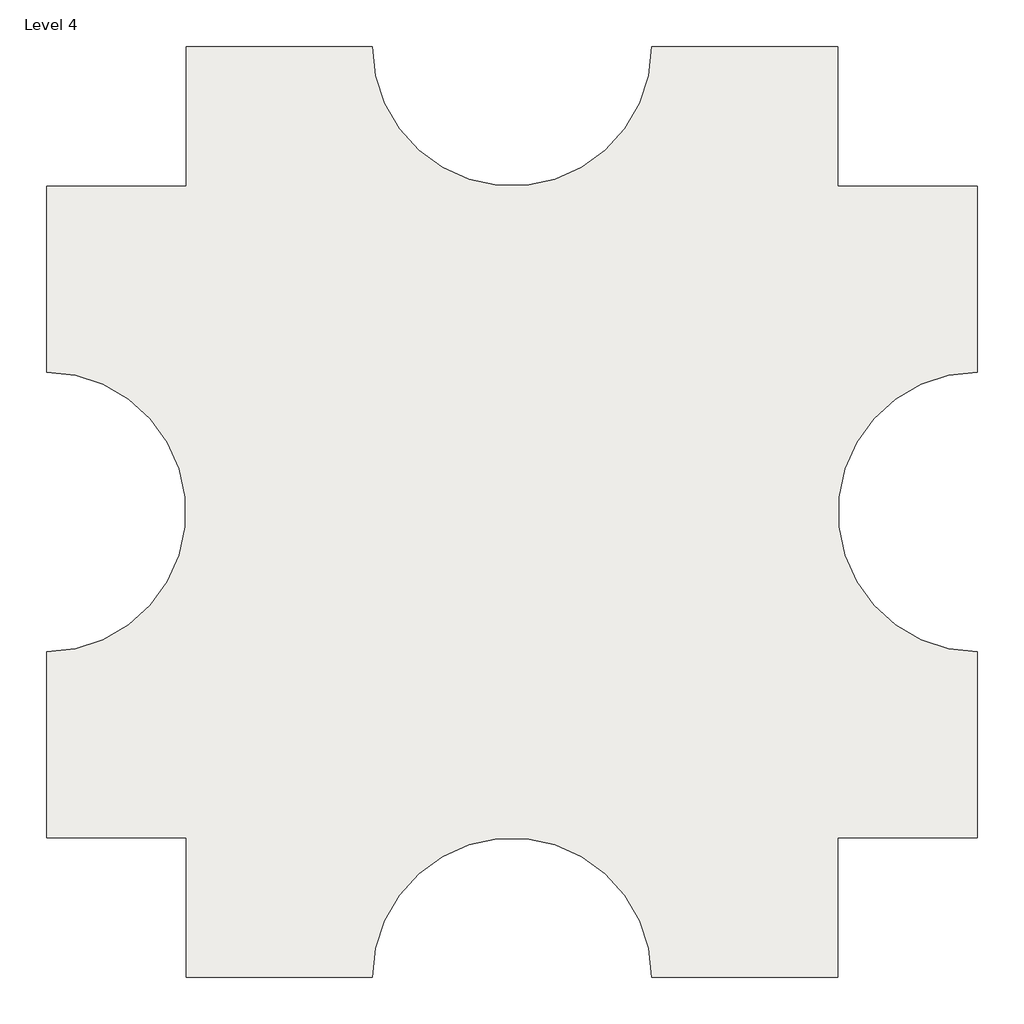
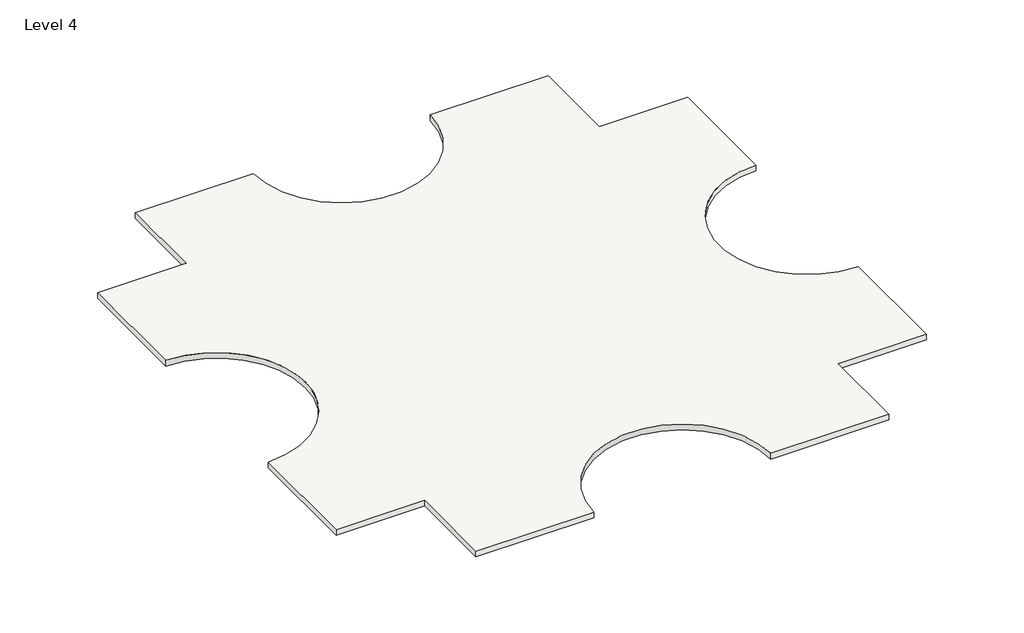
# One storey: 1 slab.
"""IFC4 building model written with IfcOpenShell, lengths in millimetres."""

import ifcopenshell
import ifcopenshell.guid

model = None  # the IFC model being written
_history = None  # IfcOwnerHistory: only IFC2X3 demands one
_inside = {}  # id of a spatial element -> (the spatial element, [elements in it])
_under = {}  # id of a project, library or spatial element -> (it, [spatial elements below it])
_declared = {}  # id of a project -> (the project, [libraries it declares])
_typed = {}  # id of a type object -> (the type object, [elements of that type])
_made_of = {}  # id of a material, layer set ... -> (it, [elements and type objects made of it])


def new_model(schema):
    """Start an empty IFC model of exactly this schema.

    Asked for "IFC4X3", IfcOpenShell would pick the latest addendum, in which some entities
    have other attributes; the version numbers below select the first issue.
    IFC2X3 requires an IfcOwnerHistory on every rooted entity: one is made here for all.
    """
    global model, _history
    if schema == "IFC4X3":
        model = ifcopenshell.file(schema_version=(4, 3, 0, 0))
    else:
        model = ifcopenshell.file(schema=schema)
    _inside.clear()
    _under.clear()
    _declared.clear()
    _typed.clear()
    _made_of.clear()
    _history = None
    if model.schema == "IFC2X3":
        org = make("IfcOrganization", Name="unknown")
        user = make(
            "IfcPersonAndOrganization",
            ThePerson=make("IfcPerson", FamilyName="unknown"),
            TheOrganization=org,
        )
        app = make(
            "IfcApplication",
            ApplicationDeveloper=org,
            Version="unknown",
            ApplicationFullName="unknown",
            ApplicationIdentifier="unknown",
        )
        _history = make(
            "IfcOwnerHistory",
            OwningUser=user,
            OwningApplication=app,
            ChangeAction="ADDED",
            CreationDate=0,
        )
    return model


def make(cls, **values):
    """One entity of the class cls with the attributes given. An attribute that is None is left unset."""
    return model.create_entity(
        cls, **{name: value for name, value in values.items() if value is not None}
    )


def rooted(cls, **values):
    """An entity with a GlobalId (a new one), such as an element, a storey or a relation."""
    return make(cls, GlobalId=ifcopenshell.guid.new(), OwnerHistory=_history, **values)


def si_unit(unit_type, name, prefix=None):
    """IfcSIUnit, for example si_unit("LENGTHUNIT", "METRE", prefix="MILLI")."""
    return make("IfcSIUnit", UnitType=unit_type, Prefix=prefix, Name=name)


def assignment(units):
    """IfcUnitAssignment: the units of a project."""
    return None if units is None else make("IfcUnitAssignment", Units=units)


def point(xyz):
    """IfcCartesianPoint."""
    return None if xyz is None else make("IfcCartesianPoint", Coordinates=xyz)


def direction(xyz):
    """IfcDirection."""
    return None if xyz is None else make("IfcDirection", DirectionRatios=xyz)


def frame(location, z_axis=None, x_axis=None):
    """IfcAxis2Placement3D, a coordinate frame: its origin and axes. An axis left out is left unset."""
    return make(
        "IfcAxis2Placement3D",
        Location=point(location),
        Axis=direction(z_axis),
        RefDirection=direction(x_axis),
    )


def frame_2d(location, x_axis=None):
    """IfcAxis2Placement2D, a coordinate frame in the plane: its origin and x axis."""
    return make(
        "IfcAxis2Placement2D", Location=point(location), RefDirection=direction(x_axis)
    )


def origin():
    """The frame at (0, 0, 0) with its axes left unset."""
    return frame((0.0, 0.0, 0.0))


def place(relative_to, where):
    """IfcLocalPlacement: puts the frame where relative to a parent placement (None: the world)."""
    return make(
        "IfcLocalPlacement", PlacementRelTo=relative_to, RelativePlacement=where
    )


def context(
    kind, dimensions, precision=None, world=None, true_north=None, identifier=None
):
    """IfcGeometricRepresentationContext, for example the 3D "Model" context."""
    return make(
        "IfcGeometricRepresentationContext",
        ContextIdentifier=identifier,
        ContextType=kind,
        CoordinateSpaceDimension=dimensions,
        Precision=precision,
        WorldCoordinateSystem=world,
        TrueNorth=true_north,
    )


def project(units=None, contexts=None):
    """IfcProject with its units and contexts."""
    return rooted(
        "IfcProject",
        Name="project",
        RepresentationContexts=contexts,
        UnitsInContext=assignment(units),
    )


def spatial(cls, under=None, at=None, **own):
    """A site, building, storey or space (cls), placed at a placement, below another one or the project."""
    s = rooted(cls, ObjectPlacement=at, **own)
    if under is not None:
        _under.setdefault(under.id(), (under, []))[1].append(s)
    return s


def polyline(points):
    """IfcPolyline through the points."""
    return make("IfcPolyline", Points=[point(p) for p in points])


def circle_curve(where, radius):
    """IfcCircle in the frame where."""
    return make("IfcCircle", Position=where, Radius=radius)


def trimmed(basis, trim1, trim2, sense, master):
    """IfcTrimmedCurve: the piece of a basis curve between two trims."""
    return make(
        "IfcTrimmedCurve",
        BasisCurve=basis,
        Trim1=trim1,
        Trim2=trim2,
        SenseAgreement=sense,
        MasterRepresentation=master,
    )


def segment(curve, same_sense, transition):
    """IfcCompositeCurveSegment."""
    return make(
        "IfcCompositeCurveSegment",
        Transition=transition,
        SameSense=same_sense,
        ParentCurve=curve,
    )


def composite_curve(segments, self_intersect=None):
    """IfcCompositeCurve: segments joined end to end."""
    return make("IfcCompositeCurve", Segments=segments, SelfIntersect=self_intersect)


def outline(outer, holes=None, kind="AREA"):
    """IfcArbitraryClosedProfileDef: a profile drawn as a closed curve; with holes, ...WithVoids."""
    if holes is None:
        return make("IfcArbitraryClosedProfileDef", ProfileType=kind, OuterCurve=outer)
    return make(
        "IfcArbitraryProfileDefWithVoids",
        ProfileType=kind,
        OuterCurve=outer,
        InnerCurves=holes,
    )


def extrude(swept, where, along, depth):
    """IfcExtrudedAreaSolid: the profile swept, set in the frame where, extruded along a direction by depth."""
    return make(
        "IfcExtrudedAreaSolid",
        SweptArea=swept,
        Position=where,
        ExtrudedDirection=direction(along),
        Depth=depth,
    )


def shape(context_of_items, identifier, shape_type, items):
    """IfcShapeRepresentation: the items that make up one representation, for example the "Body"."""
    return make(
        "IfcShapeRepresentation",
        ContextOfItems=context_of_items,
        RepresentationIdentifier=identifier,
        RepresentationType=shape_type,
        Items=items,
    )


def made_of(thing, what):
    """Note that an element or type object is made of a material, layer set ...; save() writes the relation."""
    if what is not None:
        _made_of.setdefault(what.id(), (what, []))[1].append(thing)
    return thing


def element(
    cls,
    number,
    at=None,
    inside=None,
    cuts=None,
    type_object=None,
    material=None,
    context=None,
    identifier="Body",
    shape_type=None,
    held_by="IfcProductDefinitionShape",
    body=None,
    shapes=None,
    **own,
):
    """One element of the class cls, such as IfcWall. Its Tag is "e" and its number.

    at: its placement. inside: the storey or other place that contains it. cuts: it is an
    opening in that element (IfcRelVoidsElement). A single representation is given by context,
    identifier, shape_type and body (its items); several are given by shapes. held_by: the class
    of the entity that holds the representations. save() writes the other relations.
    """
    e = rooted(cls, Tag="e%d" % number, ObjectPlacement=at, **own)
    if body is not None:
        shapes = [shape(context, identifier, shape_type, body)]
    if shapes is not None:
        e.Representation = make(held_by, Representations=shapes)
    if inside is not None:
        _inside.setdefault(inside.id(), (inside, []))[1].append(e)
    if cuts is not None:
        rooted(
            "IfcRelVoidsElement", RelatingBuildingElement=cuts, RelatedOpeningElement=e
        )
    if type_object is not None:
        _typed.setdefault(type_object.id(), (type_object, []))[1].append(e)
    return made_of(e, material)


def aggregate(whole, parts):
    """IfcRelAggregates: a whole, such as a stair, and the parts it consists of."""
    return rooted("IfcRelAggregates", RelatingObject=whole, RelatedObjects=parts)


def save(model, path):
    """Write the relations noted so far, then the file.

    IfcRelAggregates (storeys below a building ...), IfcRelContainedInSpatialStructure (elements
    in a storey), IfcRelDefinesByType, IfcRelAssociatesMaterial and IfcRelDeclares: one each for
    every whole, place, type object, material and project.
    """
    for whole, parts in _under.values():
        aggregate(whole, parts)
    for where, things in _inside.values():
        rooted(
            "IfcRelContainedInSpatialStructure",
            RelatedElements=things,
            RelatingStructure=where,
        )
    for kind, things in _typed.values():
        rooted("IfcRelDefinesByType", RelatedObjects=things, RelatingType=kind)
    for what, things in _made_of.values():
        rooted("IfcRelAssociatesMaterial", RelatedObjects=things, RelatingMaterial=what)
    for by, libraries in _declared.values():
        rooted("IfcRelDeclares", RelatingContext=by, RelatedDefinitions=libraries)
    model.write(path)


model = new_model("IFC4")

# Units and contexts
model_context = context("Model", 3, world=origin())
ifc_project = project(units=[si_unit("LENGTHUNIT", "METRE", prefix="MILLI")], contexts=[model_context])

# Site, building, storey
site = spatial("IfcSite", under=ifc_project)
building = spatial("IfcBuilding", under=site)
storey = spatial("IfcBuildingStorey", under=building, Name="Level 4", Elevation=9144.0)

# Slab
placement = place(None, origin())
element("IfcSlab", 1, ObjectType="Generic - 12\"", at=placement, inside=storey, context=model_context, shape_type="SweptSolid", body=[
    extrude(outline(composite_curve([segment(polyline([(-7150.3629456, 4479.6634547), (-7150.3629456, 9051.6634547), (-1054.3629456, 9051.6634547)]), True, "CONTINUOUS"), segment(trimmed(circle_curve(frame_2d((3517.6370544, 9051.6634547)), 4572.0), [point((-1054.3629456, 9051.6634547))], [point((8089.6370544, 9051.6634547))], True, "CARTESIAN"), True, "CONTINUOUS"), segment(polyline([(8089.6370544, 9051.6634547), (14185.6370544, 9051.6634547), (14185.6370544, 4479.6634547), (18757.6370544, 4479.6634547), (18757.6370544, -1616.3365453)]), True, "CONTINUOUS"), segment(trimmed(circle_curve(frame_2d((18757.6370544, -6188.3365453)), 4572.0), [point((18757.6370544, -1616.3365453))], [point((18757.6370544, -10760.3365453))], True, "CARTESIAN"), True, "CONTINUOUS"), segment(polyline([(18757.6370544, -10760.3365453), (18757.6370544, -16856.3365453), (14185.6370544, -16856.3365453), (14185.6370544, -21428.3365453), (8089.6370544, -21428.3365453)]), True, "CONTINUOUS"), segment(trimmed(circle_curve(frame_2d((3517.6370544, -21428.3365453)), 4572.0), [point((8089.6370544, -21428.3365453))], [point((-1054.3629456, -21428.3365453))], True, "CARTESIAN"), True, "CONTINUOUS"), segment(polyline([(-1054.3629456, -21428.3365453), (-7150.3629456, -21428.3365453), (-7150.3629456, -16856.3365453), (-11722.3629456, -16856.3365453), (-11722.3629456, -10760.3365453)]), True, "CONTINUOUS"), segment(trimmed(circle_curve(frame_2d((-11722.3629456, -6188.3365453)), 4572.0), [point((-11722.3629456, -10760.3365453))], [point((-11722.3629456, -1616.3365453))], True, "CARTESIAN"), True, "CONTINUOUS"), segment(polyline([(-11722.3629456, -1616.3365453), (-11722.3629456, 4479.6634547), (-7150.3629456, 4479.6634547)]), True, "CONTINUOUS")], self_intersect=False)), frame((0.0, 0.0, 8839.2), z_axis=(0.0, 0.0, 1.0), x_axis=(1.0, 0.0, 0.0)), (0.0, 0.0, 1.0), 304.8),
])

save(model, "model.ifc")
